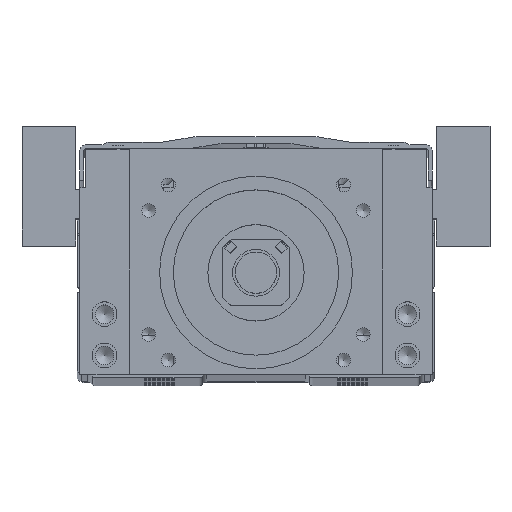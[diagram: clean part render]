
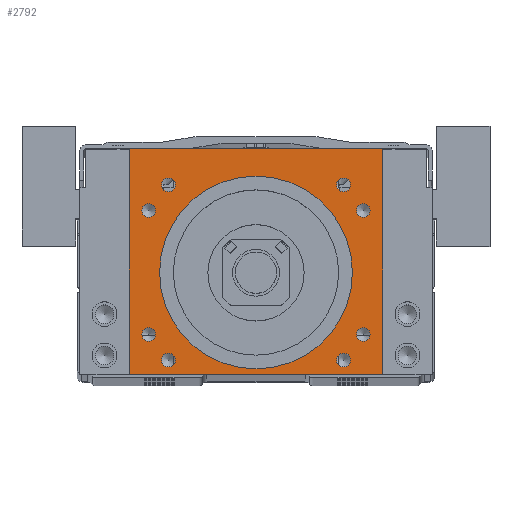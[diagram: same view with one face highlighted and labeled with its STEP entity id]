
A CAD part, top view. The second image highlights one B-rep face of the part: STEP entity #2792.
In plain terms, the highlighted planar face has unit normal (0, 0, 1).
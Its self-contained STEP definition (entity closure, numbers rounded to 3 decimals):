
#2792=ADVANCED_FACE('',(#7650,#7651,#7652,#7653,#7654,#7655,#7656,#7657,
#7658,#7659),#3740,.T.);
#3740=PLANE('',#20684);
#4226=LINE('',#27347,#5769);
#4748=LINE('',#29599,#6291);
#4753=LINE('',#29607,#6296);
#4758=LINE('',#29616,#6301);
#5769=VECTOR('',#21958,1.);
#6291=VECTOR('',#23840,1.);
#6296=VECTOR('',#23851,1.);
#6301=VECTOR('',#23858,1.);
#7650=FACE_BOUND('',#8892,.T.);
#7651=FACE_BOUND('',#8893,.T.);
#7652=FACE_BOUND('',#8894,.T.);
#7653=FACE_BOUND('',#8895,.T.);
#7654=FACE_BOUND('',#8896,.T.);
#7655=FACE_BOUND('',#8897,.T.);
#7656=FACE_BOUND('',#8898,.T.);
#7657=FACE_BOUND('',#8899,.T.);
#7658=FACE_BOUND('',#8900,.T.);
#7659=FACE_BOUND('',#8901,.T.);
#8892=EDGE_LOOP('',(#11840,#11841,#11842,#11843));
#8893=EDGE_LOOP('',(#11844));
#8894=EDGE_LOOP('',(#11845));
#8895=EDGE_LOOP('',(#11846));
#8896=EDGE_LOOP('',(#11847));
#8897=EDGE_LOOP('',(#11848));
#8898=EDGE_LOOP('',(#11849));
#8899=EDGE_LOOP('',(#11850));
#8900=EDGE_LOOP('',(#11851));
#8901=EDGE_LOOP('',(#11852));
#11840=ORIENTED_EDGE('',*,*,#17722,.T.);
#11841=ORIENTED_EDGE('',*,*,#16830,.T.);
#11842=ORIENTED_EDGE('',*,*,#17717,.T.);
#11843=ORIENTED_EDGE('',*,*,#17727,.T.);
#11844=ORIENTED_EDGE('',*,*,#17735,.F.);
#11845=ORIENTED_EDGE('',*,*,#17736,.T.);
#11846=ORIENTED_EDGE('',*,*,#17737,.T.);
#11847=ORIENTED_EDGE('',*,*,#17738,.F.);
#11848=ORIENTED_EDGE('',*,*,#17734,.F.);
#11849=ORIENTED_EDGE('',*,*,#17739,.T.);
#11850=ORIENTED_EDGE('',*,*,#17740,.T.);
#11851=ORIENTED_EDGE('',*,*,#17741,.T.);
#11852=ORIENTED_EDGE('',*,*,#17742,.T.);
#14988=VERTEX_POINT('',#27346);
#14989=VERTEX_POINT('',#27348);
#15627=VERTEX_POINT('',#29597);
#15629=VERTEX_POINT('',#29608);
#15635=VERTEX_POINT('',#29632);
#15636=VERTEX_POINT('',#29635);
#15637=VERTEX_POINT('',#29637);
#15638=VERTEX_POINT('',#29639);
#15639=VERTEX_POINT('',#29641);
#15640=VERTEX_POINT('',#29643);
#15641=VERTEX_POINT('',#29645);
#15642=VERTEX_POINT('',#29647);
#15643=VERTEX_POINT('',#29649);
#16830=EDGE_CURVE('',#14989,#14988,#4226,.T.);
#17717=EDGE_CURVE('',#14988,#15627,#4748,.T.);
#17722=EDGE_CURVE('',#15629,#14989,#4753,.T.);
#17727=EDGE_CURVE('',#15627,#15629,#4758,.T.);
#17734=EDGE_CURVE('',#15635,#15635,#19525,.T.);
#17735=EDGE_CURVE('',#15636,#15636,#19526,.T.);
#17736=EDGE_CURVE('',#15637,#15637,#19527,.T.);
#17737=EDGE_CURVE('',#15638,#15638,#19528,.T.);
#17738=EDGE_CURVE('',#15639,#15639,#19529,.T.);
#17739=EDGE_CURVE('',#15640,#15640,#19530,.T.);
#17740=EDGE_CURVE('',#15641,#15641,#19531,.T.);
#17741=EDGE_CURVE('',#15642,#15642,#19532,.T.);
#17742=EDGE_CURVE('',#15643,#15643,#19533,.T.);
#19525=CIRCLE('',#20674,35.015);
#19526=CIRCLE('',#20676,2.5);
#19527=CIRCLE('',#20677,2.5);
#19528=CIRCLE('',#20678,2.5);
#19529=CIRCLE('',#20679,2.5);
#19530=CIRCLE('',#20680,2.5);
#19531=CIRCLE('',#20681,2.5);
#19532=CIRCLE('',#20682,2.5);
#19533=CIRCLE('',#20683,2.5);
#20674=AXIS2_PLACEMENT_3D('',#29631,#23877,#23878);
#20676=AXIS2_PLACEMENT_3D('',#29634,#23881,#23882);
#20677=AXIS2_PLACEMENT_3D('',#29636,#23883,#23884);
#20678=AXIS2_PLACEMENT_3D('',#29638,#23885,#23886);
#20679=AXIS2_PLACEMENT_3D('',#29640,#23887,#23888);
#20680=AXIS2_PLACEMENT_3D('',#29642,#23889,#23890);
#20681=AXIS2_PLACEMENT_3D('',#29644,#23891,#23892);
#20682=AXIS2_PLACEMENT_3D('',#29646,#23893,#23894);
#20683=AXIS2_PLACEMENT_3D('',#29648,#23895,#23896);
#20684=AXIS2_PLACEMENT_3D('',#29650,#23897,#23898);
#21958=DIRECTION('',(-1.,0.,0.));
#23840=DIRECTION('',(0.,-1.,0.));
#23851=DIRECTION('',(0.,1.,0.));
#23858=DIRECTION('',(1.,0.,0.));
#23877=DIRECTION('',(0.,0.,1.));
#23878=DIRECTION('',(1.,0.,0.));
#23881=DIRECTION('',(0.,0.,1.));
#23882=DIRECTION('',(-1.,0.,0.));
#23883=DIRECTION('',(0.,0.,-1.));
#23884=DIRECTION('',(1.,0.,0.));
#23885=DIRECTION('',(0.,0.,-1.));
#23886=DIRECTION('',(1.,0.,0.));
#23887=DIRECTION('',(0.,0.,1.));
#23888=DIRECTION('',(-1.,0.,0.));
#23889=DIRECTION('',(0.,0.,-1.));
#23890=DIRECTION('',(1.,0.,0.));
#23891=DIRECTION('',(0.,0.,-1.));
#23892=DIRECTION('',(1.,0.,0.));
#23893=DIRECTION('',(0.,0.,-1.));
#23894=DIRECTION('',(1.,0.,0.));
#23895=DIRECTION('',(0.,0.,-1.));
#23896=DIRECTION('',(1.,0.,0.));
#23897=DIRECTION('',(0.,0.,1.));
#23898=DIRECTION('',(1.,0.,0.));
#27346=CARTESIAN_POINT('',(-46.,83.,100.));
#27347=CARTESIAN_POINT('',(0.,83.,100.));
#27348=CARTESIAN_POINT('',(46.,83.,100.));
#29597=CARTESIAN_POINT('',(-46.,1.,100.));
#29599=CARTESIAN_POINT('',(-46.,38.,100.));
#29607=CARTESIAN_POINT('',(46.,38.,100.));
#29608=CARTESIAN_POINT('',(46.,1.,100.));
#29616=CARTESIAN_POINT('',(0.,1.,100.));
#29631=CARTESIAN_POINT('',(0.,38.,100.));
#29632=CARTESIAN_POINT('',(35.015,38.,100.));
#29634=CARTESIAN_POINT('',(-38.971,15.5,100.));
#29635=CARTESIAN_POINT('',(-41.471,15.5,100.));
#29636=CARTESIAN_POINT('',(38.971,60.5,100.));
#29637=CARTESIAN_POINT('',(41.471,60.5,100.));
#29638=CARTESIAN_POINT('',(38.971,15.5,100.));
#29639=CARTESIAN_POINT('',(41.471,15.5,100.));
#29640=CARTESIAN_POINT('',(-38.971,60.5,100.));
#29641=CARTESIAN_POINT('',(-41.471,60.5,100.));
#29642=CARTESIAN_POINT('',(-31.82,69.82,100.));
#29643=CARTESIAN_POINT('',(-29.32,69.82,100.));
#29644=CARTESIAN_POINT('',(-31.82,6.18,100.));
#29645=CARTESIAN_POINT('',(-29.32,6.18,100.));
#29646=CARTESIAN_POINT('',(31.82,6.18,100.));
#29647=CARTESIAN_POINT('',(34.32,6.18,100.));
#29648=CARTESIAN_POINT('',(31.82,69.82,100.));
#29649=CARTESIAN_POINT('',(34.32,69.82,100.));
#29650=CARTESIAN_POINT('',(0.,38.,100.));
